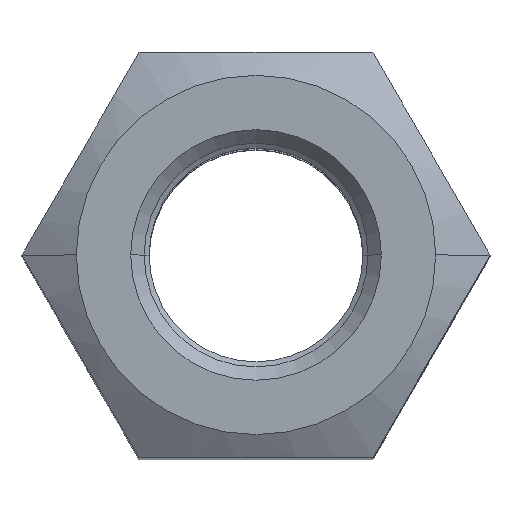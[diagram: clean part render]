
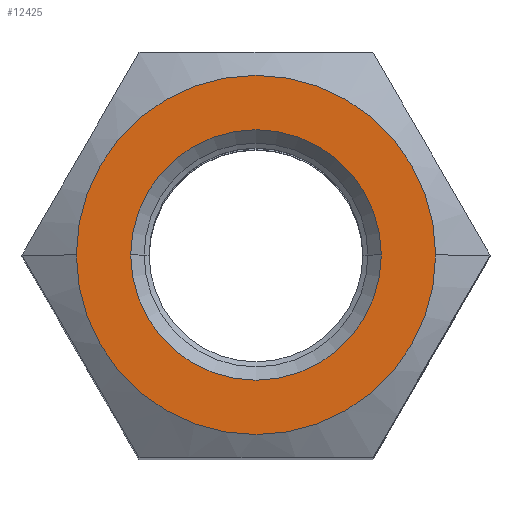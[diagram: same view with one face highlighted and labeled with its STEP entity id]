
A CAD part, top view. The second image highlights one B-rep face of the part: STEP entity #12425.
In plain terms, the highlighted planar face has unit normal (0, 0, 1).
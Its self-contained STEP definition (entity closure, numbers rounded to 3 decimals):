
#190 = DIRECTION ( 'NONE',  ( 0., 0., -1. ) ) ;
#718 = ORIENTED_EDGE ( 'NONE', *, *, #12919, .T. ) ;
#1527 = CIRCLE ( 'NONE', #11621, 9.75 ) ;
#2409 = CIRCLE ( 'NONE', #14742, 9.75 ) ;
#2482 = AXIS2_PLACEMENT_3D ( 'NONE', #15296, #12593, #4280 ) ;
#2684 = AXIS2_PLACEMENT_3D ( 'NONE', #7213, #190, #8482 ) ;
#2985 = CARTESIAN_POINT ( 'NONE',  ( -6.8, 0., 31.5 ) ) ;
#3272 = EDGE_CURVE ( 'NONE', #9990, #8315, #6476, .T. ) ;
#3564 = EDGE_CURVE ( 'NONE', #15240, #12764, #2409, .T. ) ;
#3826 = EDGE_LOOP ( 'NONE', ( #718, #7471 ) ) ;
#4280 = DIRECTION ( 'NONE',  ( -1., 0., 0. ) ) ;
#4595 = ORIENTED_EDGE ( 'NONE', *, *, #3564, .T. ) ;
#4875 = CIRCLE ( 'NONE', #2684, 6.8 ) ;
#5497 = DIRECTION ( 'NONE',  ( 0., 0., -1. ) ) ;
#6019 = DIRECTION ( 'NONE',  ( 0., 0., 1. ) ) ;
#6476 = CIRCLE ( 'NONE', #2482, 6.8 ) ;
#7213 = CARTESIAN_POINT ( 'NONE',  ( 0., 0., 31.5 ) ) ;
#7471 = ORIENTED_EDGE ( 'NONE', *, *, #3272, .T. ) ;
#7825 = CARTESIAN_POINT ( 'NONE',  ( -9.75, 0., 31.5 ) ) ;
#7838 = AXIS2_PLACEMENT_3D ( 'NONE', #12810, #5497, #14034 ) ;
#7891 = PLANE ( 'NONE',  #7838 ) ;
#8315 = VERTEX_POINT ( 'NONE', #11231 ) ;
#8482 = DIRECTION ( 'NONE',  ( -1., 0., 0. ) ) ;
#9241 = EDGE_LOOP ( 'NONE', ( #4595, #14365 ) ) ;
#9459 = DIRECTION ( 'NONE',  ( 1., 0., 0. ) ) ;
#9990 = VERTEX_POINT ( 'NONE', #2985 ) ;
#10042 = DIRECTION ( 'NONE',  ( 0., 0., 1. ) ) ;
#10201 = EDGE_CURVE ( 'NONE', #12764, #15240, #1527, .T. ) ;
#10212 = CARTESIAN_POINT ( 'NONE',  ( 0., 0., 31.5 ) ) ;
#11231 = CARTESIAN_POINT ( 'NONE',  ( 6.8, 0., 31.5 ) ) ;
#11621 = AXIS2_PLACEMENT_3D ( 'NONE', #13352, #6019, #14607 ) ;
#11641 = CARTESIAN_POINT ( 'NONE',  ( 9.75, 0., 31.5 ) ) ;
#12425 = ADVANCED_FACE ( 'NONE', ( #15419, #12521 ), #7891, .F. ) ;
#12521 = FACE_OUTER_BOUND ( 'NONE', #9241, .T. ) ;
#12593 = DIRECTION ( 'NONE',  ( 0., 0., -1. ) ) ;
#12764 = VERTEX_POINT ( 'NONE', #7825 ) ;
#12810 = CARTESIAN_POINT ( 'NONE',  ( 0., 22., 31.5 ) ) ;
#12919 = EDGE_CURVE ( 'NONE', #8315, #9990, #4875, .T. ) ;
#13352 = CARTESIAN_POINT ( 'NONE',  ( 0., 0., 31.5 ) ) ;
#14034 = DIRECTION ( 'NONE',  ( -1., 0., 0. ) ) ;
#14365 = ORIENTED_EDGE ( 'NONE', *, *, #10201, .T. ) ;
#14607 = DIRECTION ( 'NONE',  ( 1., 0., 0. ) ) ;
#14742 = AXIS2_PLACEMENT_3D ( 'NONE', #10212, #10042, #9459 ) ;
#15240 = VERTEX_POINT ( 'NONE', #11641 ) ;
#15296 = CARTESIAN_POINT ( 'NONE',  ( 0., 0., 31.5 ) ) ;
#15419 = FACE_BOUND ( 'NONE', #3826, .T. ) ;
